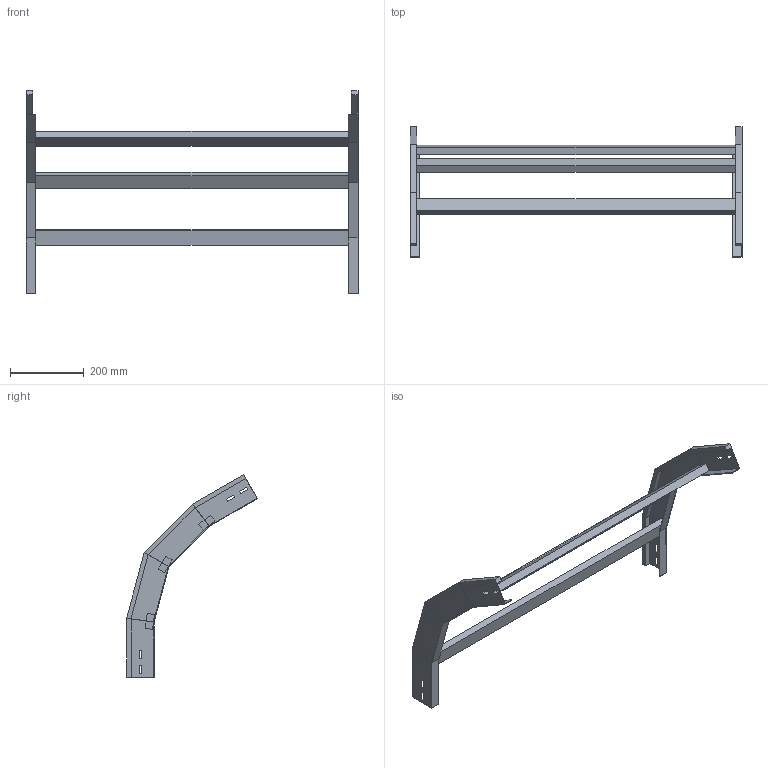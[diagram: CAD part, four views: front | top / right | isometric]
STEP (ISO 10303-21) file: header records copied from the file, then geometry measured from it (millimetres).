
FILE_DESCRIPTION (( 'STEP AP214' ), '1' );
FILE_NAME ('A2_41B3C900.step', '2025-02-21T15:00:20', ( '' ), ( '' ), 'SwSTEP 2.0', 'SolidWorks 2023', '' );
FILE_SCHEMA (( 'AUTOMOTIVE_DESIGN' ));
Length unit declared in the file: millimetre
Products named in the file (3): A2_41B3C900; TRAVERSINO_900; LONGH.DISCESA_60°_H75_R300
Assembly tree (5 placements, depth 2):
  A2_41B3C900
    LONGH.DISCESA_60°_H75_R300  x2
    TRAVERSINO_900  x3
Bounding box: 900 x 354.62 x 549.27 mm (x, y, z)
Volume: 2693267.7 mm3; surface area: 635130.3 mm2
Topology: 5 solids, 5 shells, 118 faces, 276 edges, 168 vertices
Faces by surface type: plane 118
Entity records: 1672 total; most frequent: CARTESIAN_POINT 276, ORIENTED_EDGE 264, DIRECTION 260, EDGE_CURVE 132, VECTOR 132, LINE 132, VERTEX_POINT 80, EDGE_LOOP 64
